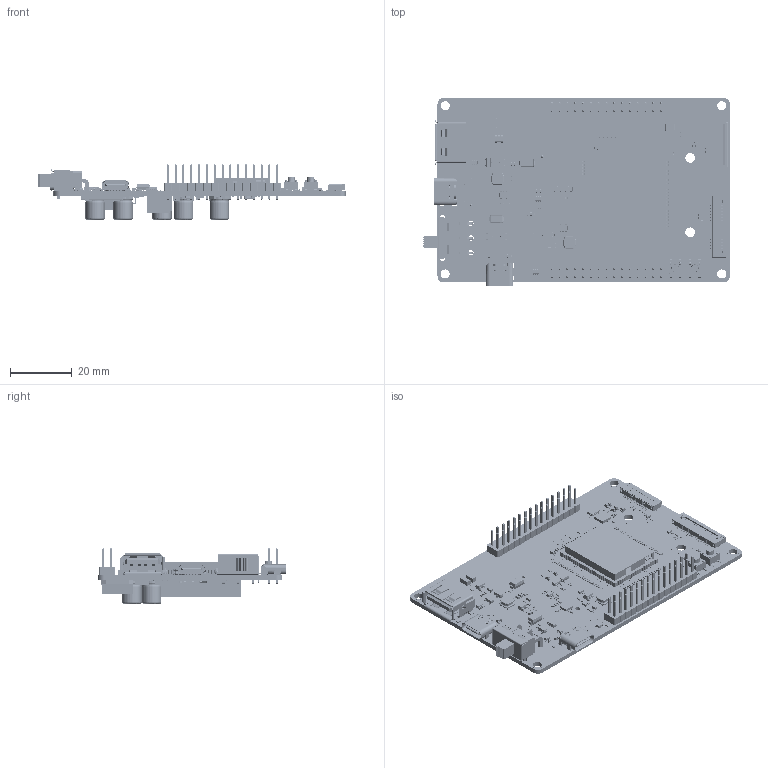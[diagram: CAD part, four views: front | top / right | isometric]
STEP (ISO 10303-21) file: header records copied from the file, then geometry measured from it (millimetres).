
FILE_DESCRIPTION(('KiCad electronic assembly'),'2;1');
FILE_NAME('WT9932P4-MINI-A1.step','2025-11-07T15:13:13',('Pcbnew'),( 'Kicad'),'Open CASCADE STEP processor 7.9','KiCad to STEP converter' ,'Unknown');
FILE_SCHEMA(('AUTOMOTIVE_DESIGN { 1 0 10303 214 1 1 1 1 }'));
Length unit declared in the file: millimetre
Products named in the file (64): WT9932P4-MINI-A1 1; R_0402_1005Metric; USB_C_Receptacle_GCT_USB4105-xx-A_16P_TopMnt_Horizontal; SOT-23; C_0402_1005Metric; LED_0603_1608Metric; DFN1006; WT9932P4-MINI-A1 1.15.1; C_0603_1608Metric; ind4x4; WT9932P4-MINI-A1 1.18.1; 4.5x4.5x3.8H-STM; WT9932P4-MINI-A1 1.19.1; SDCW2012C-2-670TF; WT9932P4-MINI-A1 1.22.1; FPC 22P 1.0; WT9932P4-MINI-A1 1.23.1; C_1206_3216Metric; WT0132P4-A1; C_0201_0603Metric; QFN-104(10x10); WT0132P4-A1 1.3.1; R_0201_0603Metric; SOT-23-5; L0806; WT0132P4-A1 1.13.1; soic8; WT0132P4-A1 1.17.1; pingbigai-w0132p4a1; SMD3225-4P; WT0132P4-A1 1.51.1; WT0132P4-A1_PCB; LESD5D5.0CT1G; WT9932P4-MINI-A1 1.32.1; fpc 15p 1.0 h2.0; WT9932P4-MINI-A1 1.33.1; PinHeader_2x15_P2.54mm_Vertical; TQFN-16-1EP_3x3mm_P0.5mm_EP1.6x1.6mm; R_0805_2012Metric; SOT-363_SC-70-6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
Assembly tree (380 placements, depth 4):
  WT9932P4-MINI-A1 1
    R_0402_1005Metric  x157
    USB_C_Receptacle_GCT_USB4105-xx-A_16P_TopMnt_Horizontal  x2
    SOT-23  x8
    C_0402_1005Metric  x34
    LED_0603_1608Metric  x9
    DFN1006  x12
      WT9932P4-MINI-A1 1.15.1
    C_0603_1608Metric  x16
    ind4x4  x2
      WT9932P4-MINI-A1 1.18.1
    4.5x4.5x3.8H-STM  x2
      WT9932P4-MINI-A1 1.19.1
    SDCW2012C-2-670TF  x3
      WT9932P4-MINI-A1 1.22.1
    FPC 22P 1.0
      WT9932P4-MINI-A1 1.23.1
    C_1206_3216Metric  x2
    WT0132P4-A1
      C_0201_0603Metric  x57
      QFN-104(10x10)
        WT0132P4-A1 1.3.1
      R_0201_0603Metric
      C_0402_1005Metric  x6
      SOT-23-5  x2
      L0806  x2
        WT0132P4-A1 1.13.1
      soic8
        WT0132P4-A1 1.17.1
      C_0603_1608Metric  x6
      pingbigai-w0132p4a1
      SMD3225-4P
        WT0132P4-A1 1.51.1
      WT0132P4-A1_PCB
    LESD5D5.0CT1G  x3
      WT9932P4-MINI-A1 1.32.1
    fpc 15p 1.0 h2.0
      WT9932P4-MINI-A1 1.33.1
    PinHeader_2x15_P2.54mm_Vertical  x2
    TQFN-16-1EP_3x3mm_P0.5mm_EP1.6x1.6mm
    R_0805_2012Metric  x2
    SOT-23-5  x3
    SOT-363_SC-70-6  x3
    D0-214AC  x2
      WT9932P4-MINI-A1 1.123.1
    SS-12D11G5
      WT9932P4-MINI-A1 1.124.1
    qfn24
      WT9932P4-MINI-A1 1.135.1
    SMD3225-4P
      WT9932P4-MINI-A1 1.172.1
    typea
      WT9932P4-MINI-A1 1.176.1
    capsmd  x5
      WT9932P4-MINI-A1 1.220.1
    pcie
      WT9932P4-MINI-A1 1.223.1
    L_0805_2012Metric
    XKNANO-113
      WT9932P4-MINI-A1 1.232.1
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Bounding box: 99.95 x 61.23 x 17.97 mm (x, y, z)
Volume: 15577.6 mm3; surface area: 31748.5 mm2
Topology: 1804 solids, 1804 shells, 40775 faces, 104285 edges, 68207 vertices
Faces by surface type: plane 26709, cylinder 8499, bspline 5005, torus 284, sphere 142, cone 136
Full cylindrical faces by diameter (mm): 0.4 x1, 0.5 x4, 0.65 x4, 0.95 x180, 1 x132, 1.7 x116, 1.75 x15, 1.8 x10, 2.95 x12, 3 x18, 3.15 x6, 3.2 x4, 4 x8
Entity records: 738347 total; most frequent: CARTESIAN_POINT 167748, ORIENTED_EDGE 115164, DIRECTION 105527, EDGE_CURVE 57582, LINE 42627, VECTOR 42627, VERTEX_POINT 37838, AXIS2_PLACEMENT_3D 31450
